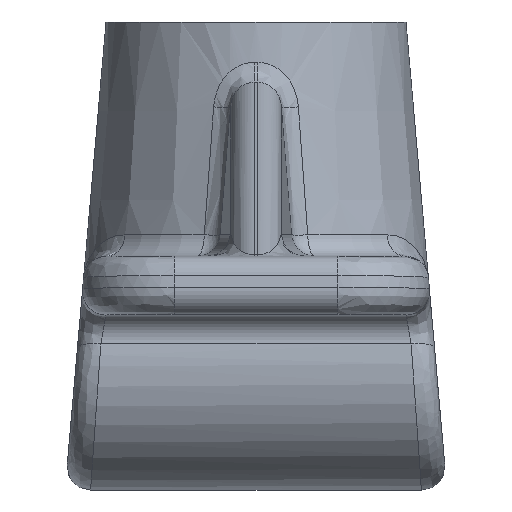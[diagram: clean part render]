
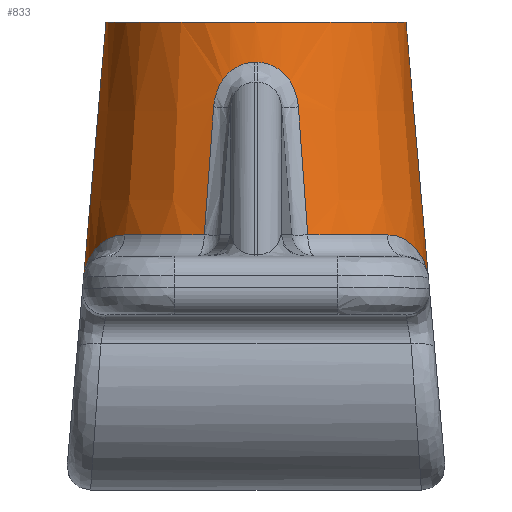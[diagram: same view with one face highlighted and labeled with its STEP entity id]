
A CAD part, left-side view. The second image highlights one B-rep face of the part: STEP entity #833.
In plain terms, the highlighted conical face has half-angle 5 degrees and reference radius 15 mm.
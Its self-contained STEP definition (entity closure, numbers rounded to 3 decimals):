
#23=CONICAL_SURFACE('',#918,15.,0.087);
#59=LINE('',#1601,#96);
#60=LINE('',#1603,#97);
#61=LINE('',#1606,#98);
#96=VECTOR('',#1057,15.);
#97=VECTOR('',#1058,10.);
#98=VECTOR('',#1061,10.);
#144=B_SPLINE_CURVE_WITH_KNOTS('',3,(#1259,#1260,#1261,#1262,#1263,#1264,
#1265,#1266),.UNSPECIFIED.,.F.,.F.,(4,1,1,2,4),(0.,0.476,0.714,
1.19,1.192),.UNSPECIFIED.);
#147=B_SPLINE_CURVE_WITH_KNOTS('',3,(#1419,#1420,#1421,#1422,#1423,#1424,
#1425,#1426),.UNSPECIFIED.,.F.,.F.,(4,2,1,1,4),(-0.002,0.,
0.476,0.714,1.19),.UNSPECIFIED.);
#149=B_SPLINE_CURVE_WITH_KNOTS('',3,(#1457,#1458,#1459,#1460),
 .UNSPECIFIED.,.F.,.F.,(4,4),(-1.767,-0.669),
 .UNSPECIFIED.);
#151=B_SPLINE_CURVE_WITH_KNOTS('',3,(#1494,#1495,#1496,#1497,#1498),
 .UNSPECIFIED.,.F.,.F.,(4,1,4),(0.,0.348,0.608),
 .UNSPECIFIED.);
#152=B_SPLINE_CURVE_WITH_KNOTS('',3,(#1522,#1523,#1524,#1525),
 .UNSPECIFIED.,.F.,.F.,(4,4),(-0.011,0.011),
 .UNSPECIFIED.);
#155=B_SPLINE_CURVE_WITH_KNOTS('',3,(#1563,#1564,#1565,#1566,#1567),
 .UNSPECIFIED.,.F.,.F.,(4,1,4),(0.,0.261,0.608),
 .UNSPECIFIED.);
#156=B_SPLINE_CURVE_WITH_KNOTS('',3,(#1588,#1589,#1590,#1591),
 .UNSPECIFIED.,.F.,.F.,(4,4),(-1.098,0.),.UNSPECIFIED.);
#219=FACE_OUTER_BOUND('',#274,.T.);
#274=EDGE_LOOP('',(#621,#622,#623,#624,#625,#626,#627,#628,#629,#630,#631,
#632,#633,#634,#635));
#321=CIRCLE('',#893,14.403);
#331=CIRCLE('',#912,14.403);
#336=CIRCLE('',#919,12.813);
#337=CIRCLE('',#920,14.81);
#355=VERTEX_POINT('',#1206);
#358=VERTEX_POINT('',#1213);
#360=VERTEX_POINT('',#1258);
#362=VERTEX_POINT('',#1277);
#372=VERTEX_POINT('',#1407);
#374=VERTEX_POINT('',#1410);
#376=VERTEX_POINT('',#1455);
#378=VERTEX_POINT('',#1492);
#380=VERTEX_POINT('',#1520);
#382=VERTEX_POINT('',#1561);
#383=VERTEX_POINT('',#1599);
#384=VERTEX_POINT('',#1602);
#385=VERTEX_POINT('',#1604);
#435=EDGE_CURVE('',#355,#358,#321,.T.);
#436=EDGE_CURVE('',#358,#360,#144,.T.);
#457=EDGE_CURVE('',#374,#372,#147,.T.);
#459=EDGE_CURVE('',#372,#362,#331,.T.);
#462=EDGE_CURVE('',#376,#355,#149,.T.);
#465=EDGE_CURVE('',#378,#376,#151,.T.);
#467=EDGE_CURVE('',#380,#378,#152,.T.);
#471=EDGE_CURVE('',#382,#380,#155,.T.);
#472=EDGE_CURVE('',#362,#382,#156,.T.);
#475=EDGE_CURVE('',#383,#383,#336,.F.);
#476=EDGE_CURVE('',#383,#360,#59,.T.);
#477=EDGE_CURVE('',#384,#374,#60,.T.);
#478=EDGE_CURVE('',#385,#384,#337,.T.);
#479=EDGE_CURVE('',#385,#360,#61,.T.);
#621=ORIENTED_EDGE('',*,*,#475,.F.);
#622=ORIENTED_EDGE('',*,*,#476,.T.);
#623=ORIENTED_EDGE('',*,*,#436,.F.);
#624=ORIENTED_EDGE('',*,*,#435,.F.);
#625=ORIENTED_EDGE('',*,*,#462,.F.);
#626=ORIENTED_EDGE('',*,*,#465,.F.);
#627=ORIENTED_EDGE('',*,*,#467,.F.);
#628=ORIENTED_EDGE('',*,*,#471,.F.);
#629=ORIENTED_EDGE('',*,*,#472,.F.);
#630=ORIENTED_EDGE('',*,*,#459,.F.);
#631=ORIENTED_EDGE('',*,*,#457,.F.);
#632=ORIENTED_EDGE('',*,*,#477,.F.);
#633=ORIENTED_EDGE('',*,*,#478,.F.);
#634=ORIENTED_EDGE('',*,*,#479,.T.);
#635=ORIENTED_EDGE('',*,*,#476,.F.);
#833=ADVANCED_FACE('',(#219),#23,.T.);
#893=AXIS2_PLACEMENT_3D('',#1217,#996,#997);
#912=AXIS2_PLACEMENT_3D('',#1429,#1040,#1041);
#918=AXIS2_PLACEMENT_3D('',#1598,#1053,#1054);
#919=AXIS2_PLACEMENT_3D('',#1600,#1055,#1056);
#920=AXIS2_PLACEMENT_3D('',#1605,#1059,#1060);
#996=DIRECTION('center_axis',(0.,0.,
-1.));
#997=DIRECTION('ref_axis',(-0.8,0.6,0.));
#1040=DIRECTION('center_axis',(0.,0.,-1.));
#1041=DIRECTION('ref_axis',(-0.8,-0.6,0.));
#1053=DIRECTION('center_axis',(0.,0.,-1.));
#1054=DIRECTION('ref_axis',(0.,-1.,0.));
#1055=DIRECTION('center_axis',(0.,0.,-1.));
#1056=DIRECTION('ref_axis',(0.,-1.,0.));
#1057=DIRECTION('',(0.,0.087,-0.996));
#1058=DIRECTION('',(0.,0.087,0.996));
#1059=DIRECTION('center_axis',(0.,0.,-1.));
#1060=DIRECTION('ref_axis',(1.,0.,0.));
#1061=DIRECTION('',(0.,-0.087,0.996));
#1206=CARTESIAN_POINT('',(56.291,29.417,6.826));
#1213=CARTESIAN_POINT('',(60.923,36.183,6.826));
#1217=CARTESIAN_POINT('Origin',(70.,25.,6.826));
#1258=CARTESIAN_POINT('',(70.,39.722,3.174));
#1259=CARTESIAN_POINT('Ctrl Pts',(60.923,36.183,6.826));
#1260=CARTESIAN_POINT('Ctrl Pts',(62.006,37.061,6.826));
#1261=CARTESIAN_POINT('Ctrl Pts',(63.778,38.158,6.296));
#1262=CARTESIAN_POINT('Ctrl Pts',(66.84,39.325,4.908));
#1263=CARTESIAN_POINT('Ctrl Pts',(68.73,39.659,3.876));
#1264=CARTESIAN_POINT('Ctrl Pts',(69.99,39.722,3.18));
#1265=CARTESIAN_POINT('Ctrl Pts',(69.995,39.722,3.177));
#1266=CARTESIAN_POINT('Ctrl Pts',(70.,39.722,3.174));
#1277=CARTESIAN_POINT('',(56.291,20.583,6.826));
#1407=CARTESIAN_POINT('',(60.923,13.817,6.826));
#1410=CARTESIAN_POINT('',(70.,10.278,3.174));
#1419=CARTESIAN_POINT('Ctrl Pts',(70.,10.278,3.174));
#1420=CARTESIAN_POINT('Ctrl Pts',(69.995,10.278,3.177));
#1421=CARTESIAN_POINT('Ctrl Pts',(69.99,10.278,3.18));
#1422=CARTESIAN_POINT('Ctrl Pts',(68.73,10.34,3.876));
#1423=CARTESIAN_POINT('Ctrl Pts',(66.839,10.676,4.91));
#1424=CARTESIAN_POINT('Ctrl Pts',(63.778,11.841,6.294));
#1425=CARTESIAN_POINT('Ctrl Pts',(62.006,12.939,6.826));
#1426=CARTESIAN_POINT('Ctrl Pts',(60.923,13.817,6.826));
#1429=CARTESIAN_POINT('Origin',(70.,25.,6.826));
#1455=CARTESIAN_POINT('',(57.048,28.616,17.749));
#1457=CARTESIAN_POINT('Ctrl Pts',(57.048,28.616,17.749));
#1458=CARTESIAN_POINT('Ctrl Pts',(56.791,28.881,14.108));
#1459=CARTESIAN_POINT('Ctrl Pts',(56.539,29.148,10.467));
#1460=CARTESIAN_POINT('Ctrl Pts',(56.291,29.417,6.826));
#1492=CARTESIAN_POINT('',(56.886,25.145,21.551));
#1494=CARTESIAN_POINT('Ctrl Pts',(56.886,25.145,21.551));
#1495=CARTESIAN_POINT('Ctrl Pts',(56.898,26.151,21.556));
#1496=CARTESIAN_POINT('Ctrl Pts',(57.083,27.896,20.62));
#1497=CARTESIAN_POINT('Ctrl Pts',(57.109,28.553,18.613));
#1498=CARTESIAN_POINT('Ctrl Pts',(57.048,28.616,17.749));
#1520=CARTESIAN_POINT('',(56.886,24.855,21.551));
#1522=CARTESIAN_POINT('Ctrl Pts',(56.886,24.855,21.551));
#1523=CARTESIAN_POINT('Ctrl Pts',(56.885,24.952,21.55));
#1524=CARTESIAN_POINT('Ctrl Pts',(56.885,25.048,21.55));
#1525=CARTESIAN_POINT('Ctrl Pts',(56.886,25.145,21.551));
#1561=CARTESIAN_POINT('',(57.048,21.384,17.749));
#1563=CARTESIAN_POINT('Ctrl Pts',(57.048,21.384,17.749));
#1564=CARTESIAN_POINT('Ctrl Pts',(57.109,21.447,18.613));
#1565=CARTESIAN_POINT('Ctrl Pts',(57.083,22.104,20.62));
#1566=CARTESIAN_POINT('Ctrl Pts',(56.898,23.849,21.556));
#1567=CARTESIAN_POINT('Ctrl Pts',(56.886,24.855,21.551));
#1588=CARTESIAN_POINT('Ctrl Pts',(56.291,20.583,6.826));
#1589=CARTESIAN_POINT('Ctrl Pts',(56.539,20.852,10.467));
#1590=CARTESIAN_POINT('Ctrl Pts',(56.791,21.119,14.108));
#1591=CARTESIAN_POINT('Ctrl Pts',(57.048,21.384,17.749));
#1598=CARTESIAN_POINT('Origin',(70.,25.,0.));
#1599=CARTESIAN_POINT('',(70.,37.813,25.));
#1600=CARTESIAN_POINT('Origin',(70.,25.,25.));
#1601=CARTESIAN_POINT('',(70.,40.,0.));
#1602=CARTESIAN_POINT('',(70.,10.19,2.174));
#1603=CARTESIAN_POINT('',(70.,10.,0.));
#1604=CARTESIAN_POINT('',(70.,39.81,2.174));
#1605=CARTESIAN_POINT('Origin',(70.,25.,2.174));
#1606=CARTESIAN_POINT('',(70.,40.,0.));
